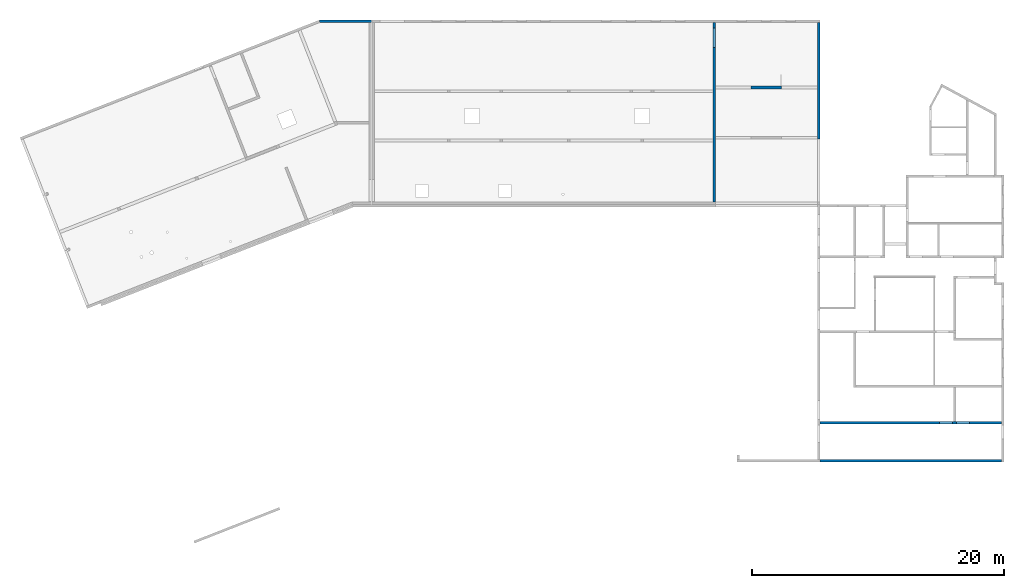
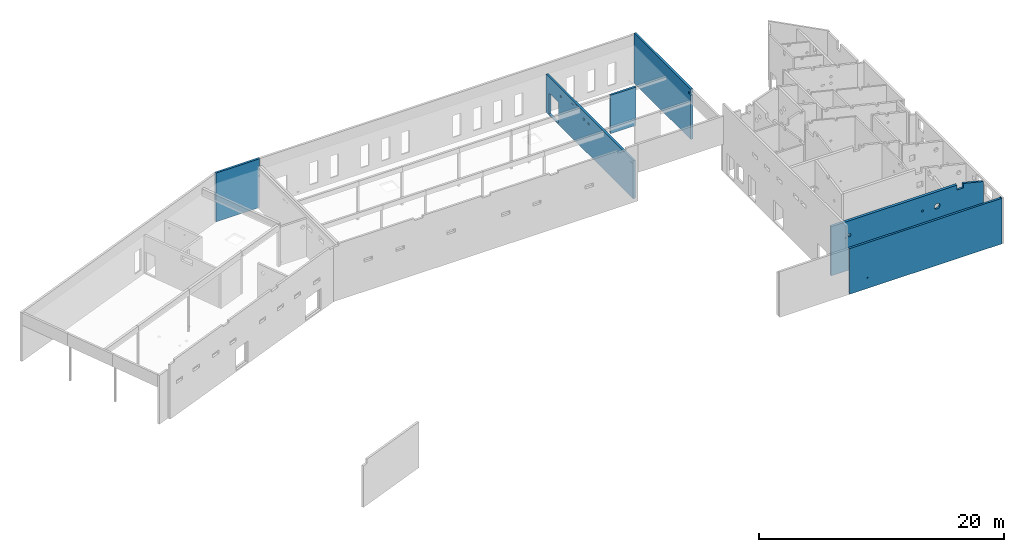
# One storey, part 5 of 13: 6 walls, 16 openings.
"""IFC2X3 building model written with IfcOpenShell, lengths in metres."""

from ifc_helpers import new_model, entity, si_unit, converted_unit, direction, frame, frame_2d, origin, origin_with_axes, place, context, subcontext, project, spatial, polyline, rectangle, outline, extrude, clip, bounded_halfspace, material, layer, layer_set, layer_usage, element, save


model = new_model("IFC2X3")

# Units and contexts
model_context = context("Model", 3, precision=1e-05, world=origin(), true_north=direction((-0.407059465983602, -0.913401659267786)))
body_context = subcontext(model_context, "Body", "Model", "MODEL_VIEW")
ifc_project = project(units=[si_unit("LENGTHUNIT", "METRE"), si_unit("AREAUNIT", "SQUARE_METRE"), si_unit("VOLUMEUNIT", "CUBIC_METRE"), si_unit("MASSUNIT", "GRAM", prefix="KILO"), converted_unit("PLANEANGLEUNIT", "DEGREE", entity("IfcPlaneAngleMeasure", 0.0174532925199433), si_unit("PLANEANGLEUNIT", "RADIAN"), dimensions=[0, 0, 0, 0, 0, 0, 0])], contexts=[model_context])

# Site, buildings, storey
site_placement = place(None, origin())
site = spatial("IfcSite", under=ifc_project, at=site_placement, Name="Site", CompositionType="ELEMENT")
building_1_placement = place(site_placement, origin())
building_1 = spatial("IfcBuilding", under=site, at=building_1_placement, Name="Site", CompositionType="COMPLEX")
building_2_placement = place(building_1_placement, origin())
building_2 = spatial("IfcBuilding", under=building_1, at=building_2_placement, Name="Bâtiments", CompositionType="ELEMENT")
storey_placement = place(building_2_placement, frame((0.0, 0.0, -0.14)))
storey = spatial("IfcBuildingStorey", under=building_2, at=storey_placement, Name="RDC", CompositionType="ELEMENT", Elevation=-0.14)

# Walls
ifc_material_1 = material(Name="Béton")
ifc_layer_1 = layer(ifc_material_1, 0.200000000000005)
ifc_layer_set_1 = layer_set([ifc_layer_1])
ifc_layer_usage_1 = layer_usage(ifc_layer_set_1, "AXIS2", "POSITIVE", -0.100000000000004)
wall_1_placement = place(storey_placement, frame((57.9607578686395, 3.95588101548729, 0.0), z_axis=(0.0, 0.0, 1.0), x_axis=(1.0, 4.68205429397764e-10, 0.0)))
element("IfcWallStandardCase", 1, at=wall_1_placement, inside=storey, material=ifc_layer_usage_1, context=body_context, shape_type="SweptSolid", body=[
    extrude(rectangle(XDim=2.4036081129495, YDim=0.200000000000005, at=frame_2d((1.20180405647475, 0.100000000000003), x_axis=(1.0, 0.0))), origin_with_axes(), (0.0, 0.0, 1.0), 3.84),
])
ifc_material_2 = material(Name="Béton")
ifc_layer_2 = layer(ifc_material_2, 0.199997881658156)
ifc_layer_set_2 = layer_set([ifc_layer_2])
ifc_layer_usage_2 = layer_usage(ifc_layer_set_2, "AXIS2", "POSITIVE", -0.2)
wall_2_placement = place(storey_placement, frame((23.748496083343, 9.21038730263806, 0.0), z_axis=(0.0, 0.0, 1.0), x_axis=(0.999999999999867, 5.14891507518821e-07, 0.0)))
element("IfcWallStandardCase", 2, at=wall_2_placement, inside=storey, material=ifc_layer_usage_2, context=body_context, shape_type="SweptSolid", body=[
    extrude(outline(polyline([(0.0378315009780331, -1.94791185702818e-08), (4.15198329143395, -2.13782093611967e-06), (4.15198329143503, -1.94791185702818e-08), (4.15198339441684, 0.199997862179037), (1.02978301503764e-07, 0.199999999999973), (0.0378315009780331, -1.94791185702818e-08)])), frame((-0.0378315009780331, 1.94791185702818e-08, 0.0), z_axis=(0.0, 0.0, 1.0), x_axis=(1.0, 0.0, 0.0)), (0.0, 0.0, 1.0), 4.88),
])

# Wall, openings
ifc_material_3 = material(Name="Béton")
ifc_layer_3 = layer(ifc_material_3, 0.2)
ifc_layer_set_3 = layer_set([ifc_layer_3])
ifc_layer_usage_3 = layer_usage(ifc_layer_set_3, "AXIS2", "POSITIVE", -0.100000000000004)
wall_3_placement = place(storey_placement, frame((54.91248139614, 9.21045540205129, 0.02), z_axis=(0.0, 0.0, 1.0), x_axis=(4.68205667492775e-10, -1.0, 0.0)))
wall_3 = element("IfcWallStandardCase", 3, at=wall_3_placement, inside=storey, material=ifc_layer_usage_3, context=body_context, shape_type="SweptSolid", body=[
    extrude(outline(polyline([(-14.2294069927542, 6.66228899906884e-09), (-4.31393488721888e-07, 6.66228899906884e-09), (9.36411366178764e-11, 0.200000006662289), (-14.2294069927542, 0.200000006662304), (-14.2294069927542, 6.66228899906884e-09)])), frame((14.2294069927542, -6.66228899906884e-09, 0.0), z_axis=(0.0, 0.0, 1.0), x_axis=(1.0, 0.0, 0.0)), (0.0, 0.0, 1.0), 3.82),
])
opening_1_placement = place(wall_3_placement, frame((13.7362802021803, 3.86914508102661e-15, 3.42), z_axis=(9.09494701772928e-15, 1.0, 0.0), x_axis=(0.0, 0.0, 1.0)))
element("IfcOpeningElement", 4, at=opening_1_placement, cuts=wall_3, Name="EL-019", ObjectType="Opening", context=body_context, shape_type="SweptSolid", body=[
    extrude(outline(polyline([(0.0, 0.35), (0.07, 0.35), (0.07, 0.0), (0.0, 0.0), (0.0, 0.35)])), origin_with_axes(), (0.0, 0.0, 1.0), 0.2),
])
opening_2_placement = place(wall_3_placement, frame((5.00419993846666, 0.200000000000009, 3.72), z_axis=(-1.36424205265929e-14, -1.0, 0.0), x_axis=(0.0, 0.0, 1.0)))
element("IfcOpeningElement", 5, at=opening_2_placement, cuts=wall_3, Name="EL-008", ObjectType="Opening", context=body_context, shape_type="SweptSolid", body=[
    extrude(outline(polyline([(0.0, 0.25), (0.07, 0.25), (0.07, 0.0), (0.0, 0.0), (0.0, 0.25)])), origin_with_axes(), (0.0, 0.0, 1.0), 0.200000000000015),
])
opening_3_placement = place(wall_3_placement, frame((4.14996335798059, 8.40816209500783e-16, 3.42), z_axis=(9.09494701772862e-15, 1.0, 0.0), x_axis=(0.0, 0.0, 1.0)))
element("IfcOpeningElement", 6, at=opening_3_placement, cuts=wall_3, Name="EL-013", ObjectType="Opening", context=body_context, shape_type="SweptSolid", body=[
    extrude(outline(polyline([(0.0, 0.35), (0.07, 0.35), (0.07, 0.0), (0.0, 0.0), (0.0, 0.35)])), origin_with_axes(), (0.0, 0.0, 1.0), 0.200000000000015),
])
opening_4_placement = place(wall_3_placement, frame((1.99786234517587, 0.200000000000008, 0.12), z_axis=(-2.27373675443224e-15, -1.0, 0.0), x_axis=(0.0, 0.0, 1.0)))
element("IfcOpeningElement", 7, at=opening_4_placement, cuts=wall_3, Name="Baie de porte", ObjectType="Opening", context=body_context, shape_type="SweptSolid", body=[
    extrude(outline(polyline([(0.0, 1.56), (2.1, 1.56), (2.1, 0.0), (0.0, 0.0), (0.0, 1.56)])), origin_with_axes(), (0.0, 0.0, 1.0), 0.200000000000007),
])
opening_5_placement = place(wall_3_placement, frame((6.79086935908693, 4.47265209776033e-15, 2.94), z_axis=(1.81898940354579e-14, 1.0, 0.0), x_axis=(0.0, 0.0, 1.0)))
element("IfcOpeningElement", 8, at=opening_5_placement, cuts=wall_3, Name="CVC-056", ObjectType="Opening", context=body_context, shape_type="SweptSolid", body=[
    extrude(outline(polyline([(0.124964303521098, 0.0), (0.111898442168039, 0.000688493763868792), (0.0989761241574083, 0.00273897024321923), (0.0863389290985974, 0.00612896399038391), (0.0741253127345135, 0.0108213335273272), (0.0624690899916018, 0.0167646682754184), (0.0514979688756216, 0.0238938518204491), (0.041332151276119, 0.0321307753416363), (0.0320830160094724, 0.0413851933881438), (0.0238518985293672, 0.0515557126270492), (0.0167289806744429, 0.0625309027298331), (0.0107923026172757, 0.0741905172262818), (0.00610690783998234, 0.0864068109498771), (0.00272413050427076, 0.0990459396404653), (0.000681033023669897, 0.111969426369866), (0.0, 0.125035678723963), (0.000688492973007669, 0.138101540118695), (0.00273896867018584, 0.151023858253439), (0.00612896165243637, 0.163661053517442), (0.0108213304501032, 0.175874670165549), (0.0167646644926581, 0.187530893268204), (0.0238938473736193, 0.198502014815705), (0.032130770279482, 0.208667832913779), (0.04138518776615, 0.217916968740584), (0.051555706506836, 0.226148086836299), (0.0625308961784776, 0.233271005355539), (0.0741905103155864, 0.239207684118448), (0.0864068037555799, 0.243893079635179), (0.0990459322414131, 0.247275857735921), (0.111969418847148, 0.249318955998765), (0.125035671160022, 0.249999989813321), (0.138101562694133, 0.249311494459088), (0.151023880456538, 0.247261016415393), (0.163661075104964, 0.2438710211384), (0.175874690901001, 0.239178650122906), (0.187530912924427, 0.23323531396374), (0.198502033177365, 0.226106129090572), (0.208667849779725, 0.217869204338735), (0.217916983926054, 0.208614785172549), (0.226148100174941, 0.198444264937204), (0.233271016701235, 0.187469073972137), (0.239207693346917, 0.175809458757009), (0.243893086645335, 0.163593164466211), (0.247275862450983, 0.150954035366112), (0.249318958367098, 0.138030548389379), (0.249999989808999, 0.124964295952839), (0.249311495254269, 0.111898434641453), (0.247261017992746, 0.0989761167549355), (0.243871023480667, 0.0863389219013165), (0.239178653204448, 0.0741253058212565), (0.23323531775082, 0.0624690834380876), (0.226106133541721, 0.0514979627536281), (0.217869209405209, 0.0413321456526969), (0.208614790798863, 0.032083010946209), (0.198444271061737, 0.023851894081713), (0.187469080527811, 0.0167289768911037), (0.175809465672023, 0.0107922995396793), (0.163593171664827, 0.00610690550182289), (0.150954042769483, 0.00272412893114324), (0.138030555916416, 0.000681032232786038), (0.124964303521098, 0.0)])), origin_with_axes(), (0.0, 0.0, 1.0), 0.200000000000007),
])
opening_6_placement = place(wall_3_placement, frame((6.03086935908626, 2.79686766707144e-15, 2.94), z_axis=(1.81898940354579e-14, 1.0, 0.0), x_axis=(0.0, 0.0, 1.0)))
element("IfcOpeningElement", 9, at=opening_6_placement, cuts=wall_3, Name="CVC-055", ObjectType="Opening", context=body_context, shape_type="SweptSolid", body=[
    extrude(outline(polyline([(0.124964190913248, 0.0), (0.111898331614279, 0.000688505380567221), (0.0989760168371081, 0.00273899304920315), (0.0863388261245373, 0.00612899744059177), (0.0741252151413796, 0.0108213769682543), (0.062468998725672, 0.0167647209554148), (0.0514978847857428, 0.0238939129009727), (0.0413320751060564, 0.0321308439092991), (0.0320829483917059, 0.0413852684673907), (0.0238518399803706, 0.0515557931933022), (0.0167289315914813, 0.0625309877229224), (0.010792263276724, 0.0741906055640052), (0.00610687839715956, 0.0864069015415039), (0.00272411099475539, 0.0990460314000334), (0.000681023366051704, 0.111969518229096), (0.0, 0.125035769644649), (0.000688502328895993, 0.138101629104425), (0.00273898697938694, 0.151023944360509), (0.00612898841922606, 0.163661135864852), (0.010821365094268, 0.175874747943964), (0.0167647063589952, 0.187530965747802), (0.0238938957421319, 0.198502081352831), (0.0321308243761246, 0.20866789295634), (0.0413852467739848, 0.217917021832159), (0.0515557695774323, 0.22614813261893), (0.0625309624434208, 0.233271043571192), (0.0741905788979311, 0.239207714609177), (0.0864068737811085, 0.243893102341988), (0.0990460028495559, 0.247275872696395), (0.111969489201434, 0.249318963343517), (0.125035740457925, 0.249999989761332), (0.138101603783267, 0.249311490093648), (0.151023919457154, 0.247261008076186), (0.163661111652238, 0.243871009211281), (0.17587472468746, 0.239178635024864), (0.187530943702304, 0.233235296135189), (0.198502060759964, 0.226106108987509), (0.208667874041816, 0.217869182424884), (0.217917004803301, 0.208614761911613), (0.226148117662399, 0.198444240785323), (0.233271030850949, 0.187469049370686), (0.239207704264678, 0.175809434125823), (0.243893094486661, 0.163593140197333), (0.247275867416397, 0.150954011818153), (0.249318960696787, 0.138030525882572), (0.249999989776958, 0.124964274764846), (0.249311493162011, 0.111898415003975), (0.247261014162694, 0.0989760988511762), (0.24387101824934, 0.0863389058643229), (0.239178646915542, 0.0741252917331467), (0.233235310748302, 0.0624690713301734), (0.226106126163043, 0.0514979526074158), (0.217869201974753, 0.0413321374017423), (0.208614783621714, 0.0320830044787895), (0.198444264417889, 0.0238518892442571), (0.187469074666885, 0.0167289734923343), (0.175809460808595, 0.0107922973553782), (0.163593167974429, 0.00610690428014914), (0.150954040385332, 0.00272412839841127), (0.138030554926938, 0.000681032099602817), (0.124964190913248, 0.0)])), origin_with_axes(), (0.0, 0.0, 1.0), 0.200000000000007),
])
opening_7_placement = place(wall_3_placement, frame((2.28517358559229, -1.65681342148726e-15, 2.94), z_axis=(-2.27373675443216e-15, 1.0, 0.0), x_axis=(0.0, 0.0, 1.0)))
element("IfcOpeningElement", 10, at=opening_7_placement, cuts=wall_3, Name="CVC-054", ObjectType="Opening", context=body_context, shape_type="SweptSolid", body=[
    extrude(outline(polyline([(0.0999713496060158, 0.0), (0.0895186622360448, 0.000550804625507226), (0.0791808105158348, 0.0021911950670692), (0.0690710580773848, 0.00490319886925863), (0.059300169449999, 0.00865710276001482), (0.0499751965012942, 0.0134117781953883), (0.041198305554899, 0.0191151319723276), (0.0330656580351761, 0.0257046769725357), (0.0256663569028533, 0.0331082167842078), (0.0190814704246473, 0.0412446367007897), (0.0133831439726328, 0.0500247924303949), (0.00863380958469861, 0.059352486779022), (0.00488550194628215, 0.0691255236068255), (0.00217928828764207, 0.0792368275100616), (0.000544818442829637, 0.0895756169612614), (0.0, 0.100028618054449), (0.000550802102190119, 0.110481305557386), (0.00219119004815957, 0.120819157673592), (0.00490319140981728, 0.130928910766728), (0.00865709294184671, 0.140699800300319), (0.0134117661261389, 0.150024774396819), (0.0191151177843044, 0.158801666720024), (0.0257046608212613, 0.166934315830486), (0.0331081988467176, 0.174333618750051), (0.0412446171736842, 0.180918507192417), (0.0500247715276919, 0.186616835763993), (0.0593524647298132, 0.191366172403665), (0.0691255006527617, 0.195114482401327), (0.0792368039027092, 0.197820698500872), (0.0895755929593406, 0.199455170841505), (0.100028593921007, 0.199999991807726), (0.110481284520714, 0.199449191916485), (0.120819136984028, 0.197808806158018), (0.130928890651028, 0.195096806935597), (0.14069978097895, 0.191342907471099), (0.150024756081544, 0.186588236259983), (0.158801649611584, 0.180884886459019), (0.166934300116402, 0.174295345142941), (0.174333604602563, 0.166891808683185), (0.180918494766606, 0.15875539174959), (0.186616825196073, 0.149975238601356), (0.191366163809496, 0.140647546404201), (0.195114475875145, 0.130874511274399), (0.197820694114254, 0.120763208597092), (0.199455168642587, 0.110424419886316), (0.199999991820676, 0.0999714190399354), (0.199449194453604, 0.0895187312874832), (0.197808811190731, 0.0791808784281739), (0.195096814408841, 0.0690711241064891), (0.191342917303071, 0.0593002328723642), (0.186588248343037, 0.049975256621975), (0.180884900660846, 0.0411983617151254), (0.174295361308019, 0.0330657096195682), (0.166891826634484, 0.0256664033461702), (0.158755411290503, 0.0190815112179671), (0.149975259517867, 0.0133831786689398), (0.14064756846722, 0.00863383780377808), (0.130874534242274, 0.0048855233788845), (0.120763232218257, 0.00217930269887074), (0.11042444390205, 0.000544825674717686), (0.0999713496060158, 0.0)])), origin_with_axes(), (0.0, 0.0, 1.0), 0.200000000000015),
])

# Wall, opening
ifc_material_4 = material(Name="Béton")
ifc_layer_4 = layer(ifc_material_4, 0.199999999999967)
ifc_layer_set_4 = layer_set([ifc_layer_4])
ifc_layer_usage_4 = layer_usage(ifc_layer_set_4, "AXIS2", "POSITIVE", -0.199999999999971)
wall_4_placement = place(storey_placement, frame((77.813101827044, -25.4449283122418, 0.02), z_axis=(0.0, 0.0, 1.0), x_axis=(-0.999999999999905, 4.3499370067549e-07, 0.0)))
wall_4 = element("IfcWallStandardCase", 11, at=wall_4_placement, inside=storey, material=ifc_layer_usage_4, context=body_context, shape_type="Clipping", body=[
    clip(extrude(outline(polyline([(-14.3798177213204, -0.200006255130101), (8.7001461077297e-08, -0.200006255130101), (2.7209422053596e-12, -6.2551301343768e-06), (-14.3798177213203, -6.2551301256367e-06), (-14.3798177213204, -0.200006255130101)])), frame((14.3798177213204, 0.200006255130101, 0.0), z_axis=(0.0, 0.0, 1.0), x_axis=(1.0, 0.0, 0.0)), (0.0, 0.0, 1.0), 4.6069201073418), bounded_halfspace(frame((5.77447663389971, 0.109704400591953, 4.55832640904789), z_axis=(0.0, 0.0, -1.0), x_axis=(-1.0, 6.07803473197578e-16, 0.0)), True, origin_with_axes(), polyline([(14.3798177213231, 0.199999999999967), (7.42326019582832e-14, 0.199999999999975), (6.0547816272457e-14, 0.148522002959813), (0.112747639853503, 3.95261223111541e-16), (14.3798178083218, 2.60208521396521e-21), (14.3798177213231, 0.199999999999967)]))),
])
opening_8_placement = place(wall_4_placement, frame((12.6336067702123, 1.14477871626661e-15, 1.02), z_axis=(-4.31373337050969e-11, 1.0, 0.0), x_axis=(0.0, 0.0, 1.0)))
element("IfcOpeningElement", 12, at=opening_8_placement, cuts=wall_4, Name="PB-RDC-41", ObjectType="Opening", context=body_context, shape_type="SweptSolid", body=[
    extrude(outline(polyline([(0.0, 0.1), (0.1, 0.1), (0.1, 0.0), (0.0, 0.0), (0.0, 0.1)])), origin_with_axes(), (0.0, 0.0, 1.0), 0.199999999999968),
])

ifc_material_5 = material(Name="Béton")
ifc_layer_5 = layer(ifc_material_5, 0.200000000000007)
ifc_layer_set_5 = layer_set([ifc_layer_5])
ifc_layer_usage_5 = layer_usage(ifc_layer_set_5, "AXIS2", "POSITIVE", -0.2)
wall_5_placement = place(storey_placement, frame((63.213390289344, 9.21038730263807, 0.02), z_axis=(0.0, 0.0, 1.0), x_axis=(-1.74548751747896e-08, -1.0, 0.0)))
wall_5 = element("IfcWallStandardCase", 13, at=wall_5_placement, inside=storey, material=ifc_layer_usage_5, context=body_context, shape_type="SweptSolid", body=[
    extrude(rectangle(XDim=9.25865829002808, YDim=0.200000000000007, at=frame_2d((4.62932914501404, 0.100000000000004), x_axis=(1.0, 0.0))), origin_with_axes(), (0.0, 0.0, 1.0), 5.02),
])
opening_9_placement = place(wall_5_placement, frame((8.91243001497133, 2.69145448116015e-15, 4.42), z_axis=(0.0, 0.0, 1.0), x_axis=(1.0, -7.77364148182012e-15, 0.0)))
element("IfcOpeningElement", 14, at=opening_9_placement, cuts=wall_5, Name="Percement dans mur", ObjectType="Opening", context=body_context, shape_type="SweptSolid", body=[
    extrude(outline(polyline([(0.0, 0.0), (0.346228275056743, 0.0), (0.346228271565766, 0.200000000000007), (3.44524522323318e-08, 0.200000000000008), (0.0, 0.0)])), origin_with_axes(), (0.0, 0.0, 1.0), 0.2),
])

# Wall, openings
ifc_material_6 = material(Name="Béton")
ifc_layer_6 = layer(ifc_material_6, 0.199999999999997)
ifc_layer_set_6 = layer_set([ifc_layer_6])
ifc_layer_usage_6 = layer_usage(ifc_layer_set_6, "AXIS2", "POSITIVE", -0.1)
wall_6_placement = place(storey_placement, frame((63.4334971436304, -22.6314660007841, 0.02), z_axis=(0.0, 0.0, 1.0), x_axis=(0.999999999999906, -4.34994073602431e-07, 0.0)))
wall_6 = element("IfcWallStandardCase", 15, at=wall_6_placement, inside=storey, material=ifc_layer_usage_6, context=body_context, shape_type="Clipping", body=[
    clip(clip(extrude(rectangle(XDim=14.3796059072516, YDim=0.199999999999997, at=frame_2d((7.1898029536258, 0.0999999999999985), x_axis=(1.0, 0.0))), origin_with_axes(), (0.0, 0.0, 1.0), 4.9888100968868), bounded_halfspace(frame((13.2173848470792, 0.0999999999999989, 4.68469519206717), z_axis=(-0.23853345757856, -1.03760641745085e-07, -0.971134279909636), x_axis=(0.971134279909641, 3.295836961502e-17, -0.238533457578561)), True, origin_with_axes(), polyline([(12.1310768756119, -7.63113530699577e-17), (14.3796059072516, -8.67361737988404e-22), (14.3796059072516, 0.199999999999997), (11.9792506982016, 0.199999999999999), (12.1310768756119, -7.63113530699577e-17)]))), bounded_halfspace(frame((6.02758189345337, 0.0999999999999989, 4.93146104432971), z_axis=(-3.71603481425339e-07, 0.186524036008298, -0.982450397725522), x_axis=(0.999999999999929, -6.29086075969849e-18, -3.78241468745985e-07)), True, origin_with_axes(), polyline([(7.27595761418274e-15, 3.16499844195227e-21), (12.1310768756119, -7.63113530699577e-17), (11.9792506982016, 0.199999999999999), (6.92316188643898e-15, 0.199999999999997), (7.27595761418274e-15, 3.16499844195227e-21)]))),
])
opening_10_placement = place(wall_6_placement, frame((9.73420192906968, -2.65103997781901e-15, 3.19000000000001), z_axis=(2.11648512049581e-10, 1.0, 0.0), x_axis=(0.0, 0.0, 1.0)))
element("IfcOpeningElement", 16, at=opening_10_placement, cuts=wall_6, Name="CVC-112", ObjectType="Opening", context=body_context, shape_type="SweptSolid", body=[
    extrude(outline(polyline([(0.274999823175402, 0.0), (0.24625450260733, 0.00150649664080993), (0.217824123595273, 0.00600944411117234), (0.190020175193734, 0.0134595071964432), (0.163147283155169, 0.0237750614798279), (0.137499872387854, 0.0368430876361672), (0.113358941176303, 0.0525204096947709), (0.0909889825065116, 0.0706352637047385), (0.0706350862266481, 0.0909891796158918), (0.0525202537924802, 0.113359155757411), (0.0368429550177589, 0.137500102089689), (0.0237749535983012, 0.16314752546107), (0.013459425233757, 0.190020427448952), (0.00600938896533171, 0.217824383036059), (0.00150646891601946, 0.246254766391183), (0.0, 0.275000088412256), (0.00150648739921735, 0.303745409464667), (0.00600942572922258, 0.332175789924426), (0.0134594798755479, 0.359979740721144), (0.0237750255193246, 0.386852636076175), (0.0368430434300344, 0.412500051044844), (0.0525203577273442, 0.436640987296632), (0.0706352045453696, 0.459010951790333), (0.0909891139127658, 0.479364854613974), (0.113359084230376, 0.497479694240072), (0.137500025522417, 0.513157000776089), (0.163147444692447, 0.526225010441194), (0.190020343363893, 0.536540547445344), (0.217824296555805, 0.543990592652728), (0.246254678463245, 0.548493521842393), (0.274999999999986, 0.55), (0.303745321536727, 0.548493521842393), (0.332175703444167, 0.543990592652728), (0.359979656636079, 0.536540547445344), (0.386852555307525, 0.526225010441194), (0.412499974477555, 0.513157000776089), (0.436640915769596, 0.497479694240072), (0.459010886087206, 0.479364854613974), (0.479364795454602, 0.459010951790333), (0.497479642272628, 0.436640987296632), (0.513156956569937, 0.412500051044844), (0.526224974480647, 0.386852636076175), (0.536540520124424, 0.359979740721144), (0.543990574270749, 0.332175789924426), (0.548493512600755, 0.303745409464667), (0.549999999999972, 0.275000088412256), (0.548493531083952, 0.246254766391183), (0.54399061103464, 0.217824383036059), (0.536540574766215, 0.190020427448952), (0.526225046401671, 0.16314752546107), (0.513157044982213, 0.137500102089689), (0.497479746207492, 0.113359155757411), (0.479364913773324, 0.0909891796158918), (0.45901101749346, 0.0706352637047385), (0.436641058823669, 0.0525204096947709), (0.412500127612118, 0.0368430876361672), (0.386852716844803, 0.0237750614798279), (0.359979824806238, 0.0134595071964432), (0.332175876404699, 0.00600944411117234), (0.303745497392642, 0.00150649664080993), (0.274999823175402, 0.0)])), origin_with_axes(), (0.0, 0.0, 1.0), 0.199999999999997),
])
opening_11_placement = place(wall_6_placement, frame((8.52420850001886, -8.19682863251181e-16, 3.37000000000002), z_axis=(-4.35102265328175e-11, 1.0, 0.0), x_axis=(0.0, 0.0, 1.0)))
element("IfcOpeningElement", 17, at=opening_11_placement, cuts=wall_6, Name="Percement dans mur", ObjectType="Opening", context=body_context, shape_type="SweptSolid", body=[
    extrude(outline(polyline([(0.0999998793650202, 0.0), (0.0895470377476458, 0.000547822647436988), (0.0792087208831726, 0.00218526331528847), (0.0690981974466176, 0.00489438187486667), (0.0593262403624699, 0.00864549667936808), (0.0499999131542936, 0.0133975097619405), (0.0412213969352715, 0.019098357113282), (0.0330868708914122, 0.0256855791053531), (0.0256854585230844, 0.0330870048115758), (0.019098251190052, 0.0412215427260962), (0.0133974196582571, 0.0500000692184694), (0.008645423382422, 0.0593264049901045), (0.00489432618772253, 0.0690983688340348), (0.00218522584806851, 0.0792088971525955), (0.000547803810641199, 0.0895472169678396), (0.0, 0.100000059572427), (0.000547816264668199, 0.110452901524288), (0.0021852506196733, 0.120791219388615), (0.00489436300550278, 0.130901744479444), (0.00864547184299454, 0.140673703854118), (0.0133974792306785, 0.150000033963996), (0.0190983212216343, 0.158778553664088), (0.0256855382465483, 0.16691308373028), (0.0330869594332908, 0.1743145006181), (0.0412214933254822, 0.18090171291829), (0.0500000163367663, 0.186602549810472), (0.0593263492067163, 0.191354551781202), (0.0690983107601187, 0.19510565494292), (0.0792088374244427, 0.19781476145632), (0.0895471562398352, 0.199452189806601), (0.0999999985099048, 0.200000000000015), (0.110452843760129, 0.199452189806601), (0.120791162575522, 0.19781476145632), (0.130901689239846, 0.19510565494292), (0.140673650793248, 0.191354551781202), (0.149999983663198, 0.186602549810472), (0.158778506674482, 0.18090171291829), (0.166913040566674, 0.1743145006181), (0.174314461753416, 0.16691308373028), (0.18090167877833, 0.158778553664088), (0.186602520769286, 0.150000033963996), (0.19135452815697, 0.140673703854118), (0.195105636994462, 0.130901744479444), (0.197814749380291, 0.120791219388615), (0.199452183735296, 0.110452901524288), (0.199999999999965, 0.100000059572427), (0.199452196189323, 0.0895472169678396), (0.197814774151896, 0.0792088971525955), (0.195105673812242, 0.0690983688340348), (0.191354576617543, 0.0593264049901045), (0.186602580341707, 0.0500000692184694), (0.180901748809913, 0.0412215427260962), (0.17431454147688, 0.0330870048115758), (0.166913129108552, 0.0256855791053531), (0.158778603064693, 0.019098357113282), (0.150000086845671, 0.0133975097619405), (0.140673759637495, 0.00864549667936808), (0.130901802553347, 0.00489438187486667), (0.120791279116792, 0.00218526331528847), (0.110452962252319, 0.000547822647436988), (0.0999998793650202, 0.0)])), origin_with_axes(), (0.0, 0.0, 1.0), 0.199999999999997),
])
opening_12_placement = place(wall_6_placement, frame((11.8753413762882, -1.05627225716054e-15, 4.42), z_axis=(-4.35102265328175e-11, 1.0, 0.0), x_axis=(0.0, 0.0, 1.0)))
element("IfcOpeningElement", 18, at=opening_12_placement, cuts=wall_6, Name="Percement dans mur", ObjectType="Opening", context=body_context, shape_type="SweptSolid", body=[
    extrude(outline(polyline([(0.0, 0.6), (0.55, 0.6), (0.55, 0.0), (0.0, 0.0), (0.0, 0.6)])), origin_with_axes(), (0.0, 0.0, 1.0), 0.199999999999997),
])
opening_13_placement = place(wall_6_placement, frame((1.58279724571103, -3.76741910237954e-15, 3.32000000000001), z_axis=(-4.35113634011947e-11, 1.0, 0.0), x_axis=(0.0, 0.0, 1.0)))
element("IfcOpeningElement", 19, at=opening_13_placement, cuts=wall_6, Name="CVC-111", ObjectType="Opening", context=body_context, shape_type="SweptSolid", body=[
    extrude(outline(polyline([(0.149999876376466, 0.0), (0.134320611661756, 0.000821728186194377), (0.118813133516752, 0.00327788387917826), (0.103647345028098, 0.00734155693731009), (0.0889894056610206, 0.0129682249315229), (0.0749999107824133, 0.020096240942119), (0.0618321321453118, 0.028647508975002), (0.0496303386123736, 0.038528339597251), (0.0385282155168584, 0.0496304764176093), (0.0286473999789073, 0.0618322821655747), (0.0200961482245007, 0.0750000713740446), (0.0129681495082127, 0.0889895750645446), (0.00734149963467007, 0.103647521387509), (0.00327784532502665, 0.118813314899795), (0.000821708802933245, 0.134320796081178), (0.0, 0.150000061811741), (0.000821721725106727, 0.165679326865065), (0.0032778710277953, 0.181186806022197), (0.00734153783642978, 0.196352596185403), (0.0129681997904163, 0.211010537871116), (0.0200962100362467, 0.22500003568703), (0.0286474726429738, 0.238167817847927), (0.0385282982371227, 0.250369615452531), (0.0496304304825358, 0.261471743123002), (0.0618322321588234, 0.271352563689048), (0.0750000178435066, 0.279903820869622), (0.0889895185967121, 0.287031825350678), (0.103647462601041, 0.292658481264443), (0.118813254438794, 0.2967221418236), (0.134320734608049, 0.299178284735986), (0.149999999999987, 0.300000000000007), (0.165679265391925, 0.299178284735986), (0.181186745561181, 0.2967221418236), (0.196352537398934, 0.292658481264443), (0.211010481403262, 0.287031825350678), (0.224999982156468, 0.279903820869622), (0.238167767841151, 0.271352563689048), (0.250369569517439, 0.261471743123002), (0.261471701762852, 0.250369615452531), (0.271352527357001, 0.238167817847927), (0.279903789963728, 0.22500003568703), (0.287031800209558, 0.211010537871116), (0.292658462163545, 0.196352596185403), (0.296722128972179, 0.181186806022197), (0.299178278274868, 0.165679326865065), (0.299999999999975, 0.150000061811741), (0.299178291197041, 0.134320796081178), (0.296722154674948, 0.118813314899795), (0.292658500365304, 0.103647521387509), (0.287031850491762, 0.0889895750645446), (0.279903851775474, 0.0750000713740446), (0.271352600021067, 0.0618322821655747), (0.261471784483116, 0.0496304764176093), (0.250369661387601, 0.038528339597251), (0.238167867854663, 0.028647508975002), (0.225000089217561, 0.020096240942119), (0.211010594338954, 0.0129682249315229), (0.196352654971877, 0.00734155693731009), (0.181186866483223, 0.00327788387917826), (0.165679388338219, 0.000821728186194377), (0.149999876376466, 0.0)])), origin_with_axes(), (0.0, 0.0, 1.0), 0.199999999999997),
])
opening_14_placement = place(wall_6_placement, frame((1.28988917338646, -4.23214910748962e-06, 3.27), z_axis=(0.0, 0.0, 1.0), x_axis=(1.0, 6.14816704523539e-15, 0.0)))
element("IfcOpeningElement", 20, at=opening_14_placement, cuts=wall_6, Name="PB-RDC-40", ObjectType="Opening", context=body_context, shape_type="SweptSolid", body=[
    extrude(outline(polyline([(0.0, 0.0), (0.100000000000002, -4.38416731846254e-16), (0.100000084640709, 0.199999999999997), (8.46407064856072e-08, 0.199999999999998), (0.0, 0.0)])), origin_with_axes(), (0.0, 0.0, 1.0), 0.1),
])
opening_15_placement = place(wall_6_placement, frame((9.47531315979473, -1.11878128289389e-15, 0.12), z_axis=(2.11648512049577e-10, 1.0, 0.0), x_axis=(0.0, 0.0, 1.0)))
element("IfcOpeningElement", 21, at=opening_15_placement, cuts=wall_6, Name="Baie de porte", ObjectType="Opening", context=body_context, shape_type="SweptSolid", body=[
    extrude(outline(polyline([(0.0, 1.03), (2.1, 1.03), (2.1, 0.0), (0.0, 0.0), (0.0, 1.03)])), origin_with_axes(), (0.0, 0.0, 1.0), 0.200000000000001),
])
opening_16_placement = place(wall_6_placement, frame((10.8140237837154, 2.57768459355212e-15, 0.12), z_axis=(2.11657606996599e-10, 1.0, 0.0), x_axis=(0.0, 0.0, 1.0)))
element("IfcOpeningElement", 22, at=opening_16_placement, cuts=wall_6, Name="Baie de porte", ObjectType="Opening", context=body_context, shape_type="SweptSolid", body=[
    extrude(outline(polyline([(0.0, 1.03000000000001), (2.1, 1.03000000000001), (2.1, 0.0), (0.0, 0.0), (0.0, 1.03000000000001)])), origin_with_axes(), (0.0, 0.0, 1.0), 0.199999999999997),
])

save(model, "model.ifc")
